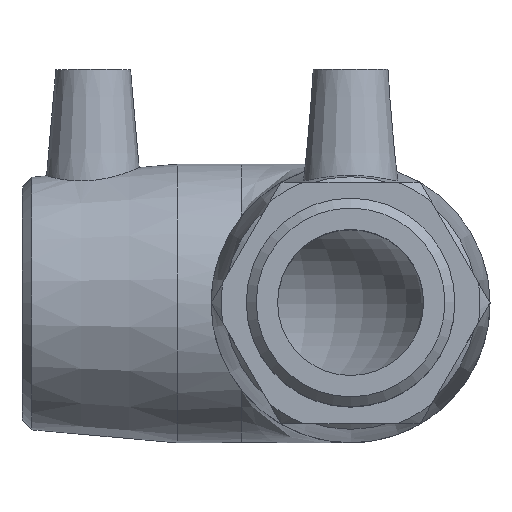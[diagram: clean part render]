
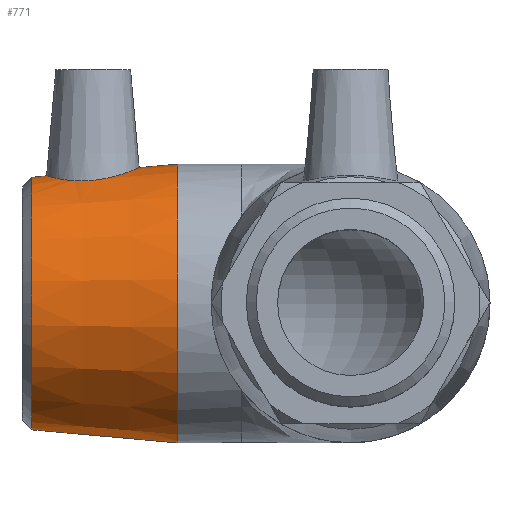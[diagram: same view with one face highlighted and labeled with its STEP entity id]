
A CAD part, top view. The second image highlights one B-rep face of the part: STEP entity #771.
In plain terms, the highlighted conical face has half-angle 5.106 degrees and reference radius 26.6 mm.
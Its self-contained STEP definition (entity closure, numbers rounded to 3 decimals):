
#17=B_SPLINE_CURVE_WITH_KNOTS('',3,(#1342,#1343,#1344,#1345,#1346,#1347,
#1348,#1349,#1350,#1351,#1352,#1353,#1354,#1355,#1356,#1357,#1358,#1359,
#1360,#1361,#1362,#1363,#1364,#1365,#1366,#1367,#1368,#1369,#1370,#1371,
#1372,#1373,#1374,#1375),.UNSPECIFIED.,.T.,.F.,(4,2,2,2,2,2,2,2,2,2,2,2,
2,2,2,2,4),(0.,0.346,0.692,1.041,1.389,
1.738,2.086,2.432,2.778,3.15,
3.521,3.884,4.247,4.61,4.973,
5.344,5.716),.UNSPECIFIED.);
#123=FACE_BOUND('',#248,.T.);
#124=FACE_BOUND('',#249,.T.);
#180=FACE_OUTER_BOUND('',#247,.T.);
#247=EDGE_LOOP('',(#642));
#248=EDGE_LOOP('',(#643));
#249=EDGE_LOOP('',(#644));
#333=CIRCLE('',#854,25.378);
#334=CIRCLE('',#856,28.);
#407=VERTEX_POINT('',#1336);
#408=VERTEX_POINT('',#1339);
#409=VERTEX_POINT('',#1341);
#501=EDGE_CURVE('',#407,#407,#333,.T.);
#502=EDGE_CURVE('',#408,#408,#334,.T.);
#503=EDGE_CURVE('',#409,#409,#17,.T.);
#642=ORIENTED_EDGE('',*,*,#502,.F.);
#643=ORIENTED_EDGE('',*,*,#503,.T.);
#644=ORIENTED_EDGE('',*,*,#501,.F.);
#738=CONICAL_SURFACE('',#855,26.6,5.106);
#771=ADVANCED_FACE('',(#180,#123,#124),#738,.T.);
#854=AXIS2_PLACEMENT_3D('',#1337,#1028,#1029);
#855=AXIS2_PLACEMENT_3D('',#1338,#1030,#1031);
#856=AXIS2_PLACEMENT_3D('',#1340,#1032,#1033);
#1028=DIRECTION('center_axis',(-1.,0.,0.));
#1029=DIRECTION('ref_axis',(0.,-1.,0.));
#1030=DIRECTION('center_axis',(1.,0.,0.));
#1031=DIRECTION('ref_axis',(0.,1.,0.));
#1032=DIRECTION('center_axis',(1.,0.,0.));
#1033=DIRECTION('ref_axis',(0.,0.,-1.));
#1336=CARTESIAN_POINT('',(-64.008,25.378,0.));
#1337=CARTESIAN_POINT('Origin',(-64.008,0.,0.));
#1338=CARTESIAN_POINT('Origin',(-50.333,0.,
0.));
#1339=CARTESIAN_POINT('',(-34.667,28.,0.));
#1340=CARTESIAN_POINT('Origin',(-34.667,0.,
0.));
#1341=CARTESIAN_POINT('',(-52.07,24.701,9.444));
#1342=CARTESIAN_POINT('Ctrl Pts',(-52.07,24.701,9.444));
#1343=CARTESIAN_POINT('Ctrl Pts',(-53.219,24.605,9.407));
#1344=CARTESIAN_POINT('Ctrl Pts',(-54.438,24.596,9.137));
#1345=CARTESIAN_POINT('Ctrl Pts',(-56.661,24.737,8.132));
#1346=CARTESIAN_POINT('Ctrl Pts',(-57.667,24.882,7.398));
#1347=CARTESIAN_POINT('Ctrl Pts',(-59.25,25.172,5.734));
#1348=CARTESIAN_POINT('Ctrl Pts',(-59.935,25.338,4.686));
#1349=CARTESIAN_POINT('Ctrl Pts',(-60.845,25.574,2.401));
#1350=CARTESIAN_POINT('Ctrl Pts',(-61.069,25.641,1.162));
#1351=CARTESIAN_POINT('Ctrl Pts',(-61.069,25.641,-1.162));
#1352=CARTESIAN_POINT('Ctrl Pts',(-60.845,25.574,-2.401));
#1353=CARTESIAN_POINT('Ctrl Pts',(-59.935,25.338,-4.686));
#1354=CARTESIAN_POINT('Ctrl Pts',(-59.25,25.172,-5.734));
#1355=CARTESIAN_POINT('Ctrl Pts',(-57.667,24.882,-7.398));
#1356=CARTESIAN_POINT('Ctrl Pts',(-56.661,24.737,-8.132));
#1357=CARTESIAN_POINT('Ctrl Pts',(-54.438,24.596,-9.137));
#1358=CARTESIAN_POINT('Ctrl Pts',(-53.219,24.605,-9.407));
#1359=CARTESIAN_POINT('Ctrl Pts',(-50.837,24.804,-9.483));
#1360=CARTESIAN_POINT('Ctrl Pts',(-49.537,25.018,-9.26));
#1361=CARTESIAN_POINT('Ctrl Pts',(-47.164,25.575,-8.303));
#1362=CARTESIAN_POINT('Ctrl Pts',(-46.089,25.911,-7.569));
#1363=CARTESIAN_POINT('Ctrl Pts',(-44.412,26.498,-5.885));
#1364=CARTESIAN_POINT('Ctrl Pts',(-43.688,26.788,-4.828));
#1365=CARTESIAN_POINT('Ctrl Pts',(-42.72,27.192,-2.49));
#1366=CARTESIAN_POINT('Ctrl Pts',(-42.477,27.302,-1.21));
#1367=CARTESIAN_POINT('Ctrl Pts',(-42.477,27.302,1.21));
#1368=CARTESIAN_POINT('Ctrl Pts',(-42.72,27.192,2.49));
#1369=CARTESIAN_POINT('Ctrl Pts',(-43.688,26.788,4.828));
#1370=CARTESIAN_POINT('Ctrl Pts',(-44.412,26.498,5.885));
#1371=CARTESIAN_POINT('Ctrl Pts',(-46.089,25.911,7.569));
#1372=CARTESIAN_POINT('Ctrl Pts',(-47.164,25.575,8.303));
#1373=CARTESIAN_POINT('Ctrl Pts',(-49.537,25.018,9.26));
#1374=CARTESIAN_POINT('Ctrl Pts',(-50.837,24.804,9.483));
#1375=CARTESIAN_POINT('Ctrl Pts',(-52.07,24.701,9.444));
